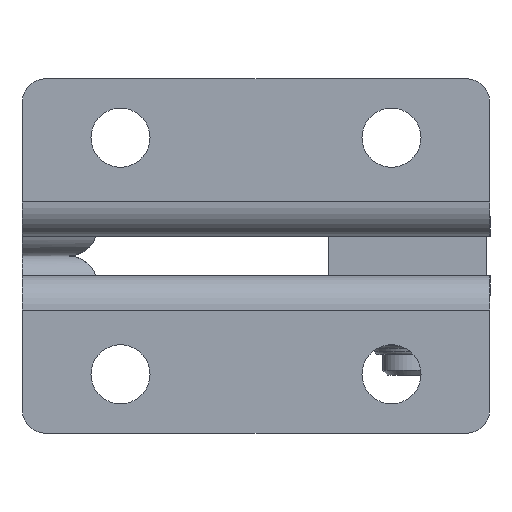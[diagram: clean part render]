
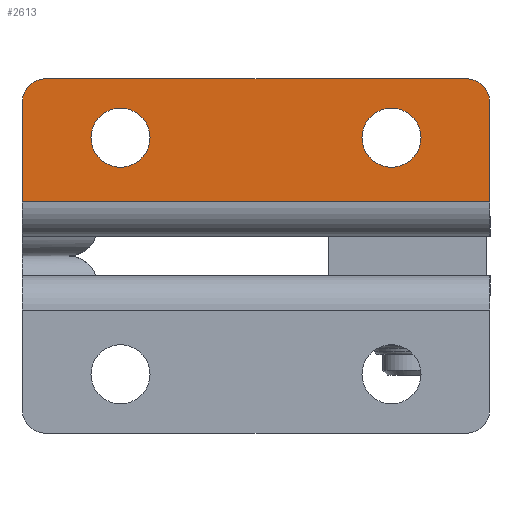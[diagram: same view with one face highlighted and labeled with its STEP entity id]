
A CAD part, left-side view. The second image highlights one B-rep face of the part: STEP entity #2613.
In plain terms, the highlighted planar face has unit normal (-1, 0, 0).
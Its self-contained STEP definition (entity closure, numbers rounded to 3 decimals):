
#241=CIRCLE('',#3023,6.);
#242=CIRCLE('',#3024,6.);
#243=CIRCLE('',#3025,5.);
#244=CIRCLE('',#3026,5.);
#431=ORIENTED_EDGE('',*,*,#1127,.T.);
#432=ORIENTED_EDGE('',*,*,#1128,.T.);
#433=ORIENTED_EDGE('',*,*,#1112,.T.);
#434=ORIENTED_EDGE('',*,*,#1129,.T.);
#435=ORIENTED_EDGE('',*,*,#1120,.T.);
#436=ORIENTED_EDGE('',*,*,#1130,.F.);
#437=ORIENTED_EDGE('',*,*,#1108,.F.);
#438=ORIENTED_EDGE('',*,*,#1131,.T.);
#1108=EDGE_CURVE('',#1456,#1457,#1708,.T.);
#1112=EDGE_CURVE('',#1461,#1460,#1711,.T.);
#1120=EDGE_CURVE('',#1469,#1468,#1717,.T.);
#1127=EDGE_CURVE('',#1475,#1475,#241,.T.);
#1128=EDGE_CURVE('',#1476,#1476,#242,.T.);
#1129=EDGE_CURVE('',#1460,#1469,#243,.F.);
#1130=EDGE_CURVE('',#1457,#1468,#1721,.T.);
#1131=EDGE_CURVE('',#1456,#1461,#244,.F.);
#1456=VERTEX_POINT('',#4239);
#1457=VERTEX_POINT('',#4241);
#1460=VERTEX_POINT('',#4248);
#1461=VERTEX_POINT('',#4250);
#1468=VERTEX_POINT('',#4265);
#1469=VERTEX_POINT('',#4267);
#1475=VERTEX_POINT('',#4281);
#1476=VERTEX_POINT('',#4283);
#1708=LINE('',#4240,#1854);
#1711=LINE('',#4249,#1857);
#1717=LINE('',#4266,#1863);
#1721=LINE('',#4285,#1867);
#1854=VECTOR('',#3383,1000.);
#1857=VECTOR('',#3390,1000.);
#1863=VECTOR('',#3402,1000.);
#1867=VECTOR('',#3420,1000.);
#1993=EDGE_LOOP('',(#431));
#1994=EDGE_LOOP('',(#432));
#1995=EDGE_LOOP('',(#433,#434,#435,#436,#437,#438));
#2271=FACE_BOUND('',#1993,.T.);
#2272=FACE_BOUND('',#1994,.T.);
#2273=FACE_BOUND('',#1995,.T.);
#2549=PLANE('',#3022);
#2613=ADVANCED_FACE('',(#2271,#2272,#2273),#2549,.F.);
#3022=AXIS2_PLACEMENT_3D('',#4279,#3412,#3413);
#3023=AXIS2_PLACEMENT_3D('',#4280,#3414,#3415);
#3024=AXIS2_PLACEMENT_3D('',#4282,#3416,#3417);
#3025=AXIS2_PLACEMENT_3D('',#4284,#3418,#3419);
#3026=AXIS2_PLACEMENT_3D('',#4286,#3421,#3422);
#3383=DIRECTION('',(0.,0.,-1.));
#3390=DIRECTION('',(0.,1.,0.));
#3402=DIRECTION('',(0.,0.,-1.));
#3412=DIRECTION('',(1.,0.,0.));
#3413=DIRECTION('',(0.,0.,-1.));
#3414=DIRECTION('',(1.,0.,0.));
#3415=DIRECTION('',(0.,0.,-1.));
#3416=DIRECTION('',(1.,0.,0.));
#3417=DIRECTION('',(0.,0.,-1.));
#3418=DIRECTION('',(1.,0.,0.));
#3419=DIRECTION('',(0.,0.,-1.));
#3420=DIRECTION('',(0.,1.,0.));
#3421=DIRECTION('',(1.,0.,0.));
#3422=DIRECTION('',(0.,0.,-1.));
#4239=CARTESIAN_POINT('',(0.,0.,27.));
#4240=CARTESIAN_POINT('',(0.,0.,32.));
#4241=CARTESIAN_POINT('',(0.,0.,7.));
#4248=CARTESIAN_POINT('',(0.,90.,32.));
#4249=CARTESIAN_POINT('',(0.,0.,32.));
#4250=CARTESIAN_POINT('',(0.,5.,32.));
#4265=CARTESIAN_POINT('',(0.,95.,7.));
#4266=CARTESIAN_POINT('',(0.,95.,32.));
#4267=CARTESIAN_POINT('',(0.,95.,27.));
#4279=CARTESIAN_POINT('',(0.,0.,32.));
#4280=CARTESIAN_POINT('',(0.,20.,20.));
#4281=CARTESIAN_POINT('',(0.,20.,14.));
#4282=CARTESIAN_POINT('',(0.,75.,20.));
#4283=CARTESIAN_POINT('',(0.,75.,14.));
#4284=CARTESIAN_POINT('',(0.,90.,27.));
#4285=CARTESIAN_POINT('',(0.,0.,7.));
#4286=CARTESIAN_POINT('',(0.,5.,27.));
